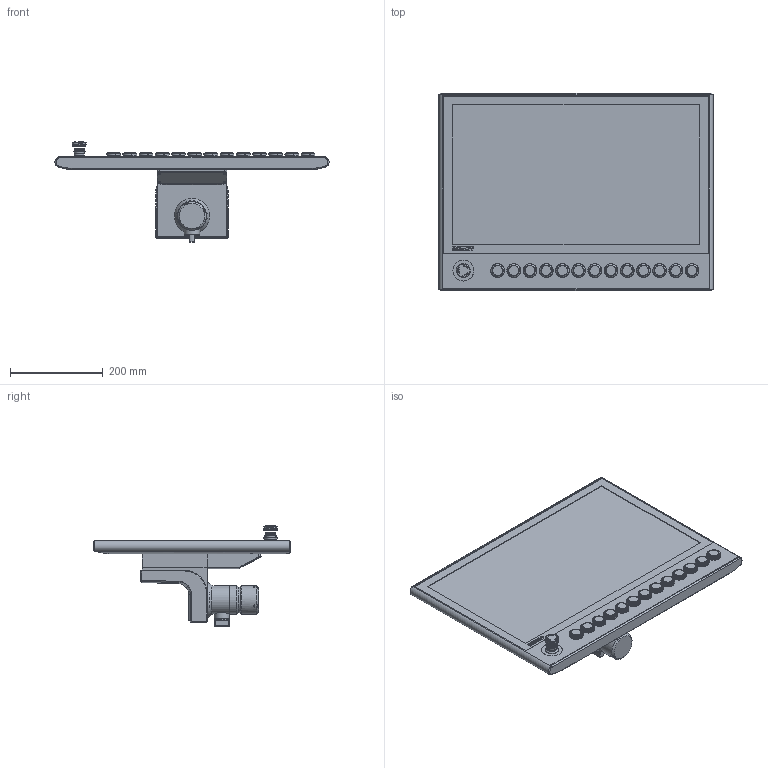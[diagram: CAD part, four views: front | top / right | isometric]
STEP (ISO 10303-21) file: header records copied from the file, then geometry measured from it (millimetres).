
FILE_DESCRIPTION(/* description */ (''),/* implementation_level */ '2;1');
FILE_NAME(/* name */ 'X:\0-inventor\0-3d-Teile\PC-Compo\solids\CP3xxx\0-Ausgabe\CP3924-G027-M753-Step.stp',/* time_stamp */ '2019-08-19T10:53:49+02:00',/* author */ ('ChristianKreuzer'),/* organization */ ('Design-AG'),/* preprocessor_version */ 'ST-DEVELOPER v17.2',/* originating_system */ 'Autodesk Inventor 2019',/* authorisation */ '');
FILE_SCHEMA (('AUTOMOTIVE_DESIGN { 1 0 10303 214 3 1 1 }'));
Products named in the file (1): CP3924-G027-M753-Step
Bounding box: 592.14 x 427.2 x 216.29 mm (x, y, z)
Volume: 9068598 mm3; surface area: 1443325.3 mm2
Topology: 58 solids, 64 shells, 2324 faces, 6415 edges, 4332 vertices
Faces by surface type: plane 1328, cylinder 515, cone 190, torus 175, bspline 88, sphere 28
Full cylindrical faces by diameter (mm): 3 x12, 3.4 x4, 4.917 x1, 6 x12, 21.3 x1, 21.5 x1, 22.2 x1, 22.55 x3, 22.7 x13, 22.8 x1, 23.028 x13, 23.7 x13, 24.8 x13, 25 x1, 25.8 x1, 26.7 x13, 26.8 x1, 28 x1, 28.6 x13, 33 x1, 45 x1, 45.2 x1, 55 x1, 62 x3
Entity records: 82779 total; most frequent: CARTESIAN_POINT 19268, DIRECTION 12961, ORIENTED_EDGE 12830, EDGE_CURVE 6415, AXIS2_PLACEMENT_3D 4739, VERTEX_POINT 4332, LINE 3483, VECTOR 3483
